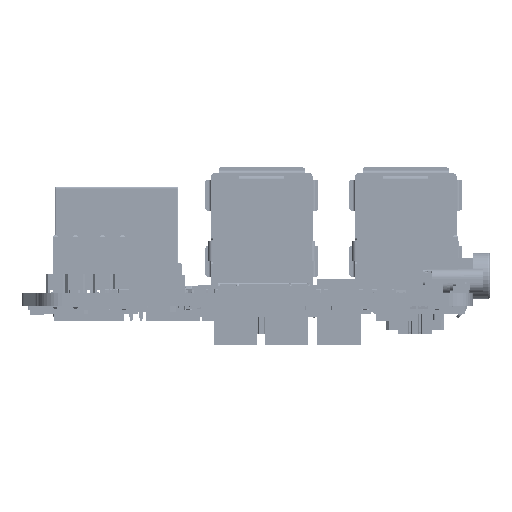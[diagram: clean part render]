
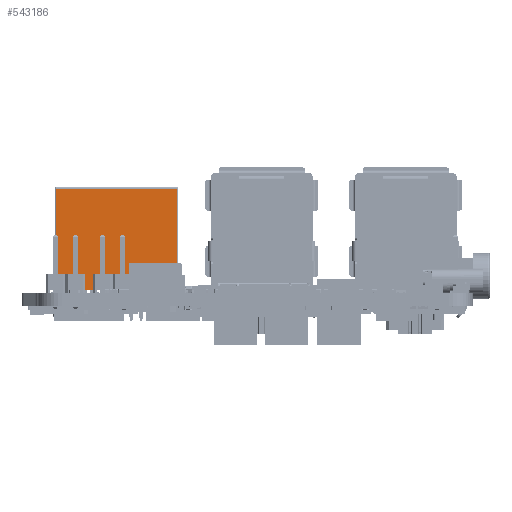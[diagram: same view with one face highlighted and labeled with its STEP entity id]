
A CAD part, left-side view. The second image highlights one B-rep face of the part: STEP entity #543186.
In plain terms, the highlighted planar face has unit normal (-1, 0, 0).
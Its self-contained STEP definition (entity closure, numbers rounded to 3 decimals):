
#51884=DIRECTION('',(0.,-1.,0.));
#51885=VECTOR('',#51884,15.47);
#51886=CARTESIAN_POINT('',(-0.059,258.792,
0.4));
#51887=LINE('',#51886,#51885);
#52177=DIRECTION('',(0.,0.,1.));
#52178=VECTOR('',#52177,13.07);
#52179=CARTESIAN_POINT('',(-0.059,243.322,
0.4));
#52180=LINE('',#52179,#52178);
#52198=DIRECTION('',(0.,0.,-1.));
#52199=VECTOR('',#52198,13.07);
#52200=CARTESIAN_POINT('',(-0.061,258.792,
13.47));
#52201=LINE('',#52200,#52199);
#53364=DIRECTION('',(0.,1.,0.));
#53365=VECTOR('',#53364,15.47);
#53366=CARTESIAN_POINT('',(-0.061,243.322,
13.47));
#53367=LINE('',#53366,#53365);
#443391=CARTESIAN_POINT('',(-0.059,243.322,
0.4));
#443392=CARTESIAN_POINT('',(-0.061,243.322,
13.47));
#443393=VERTEX_POINT('',#443391);
#443394=VERTEX_POINT('',#443392);
#443395=CARTESIAN_POINT('',(-0.059,258.792,
0.4));
#443396=VERTEX_POINT('',#443395);
#443397=CARTESIAN_POINT('',(-0.061,258.792,
13.47));
#443398=VERTEX_POINT('',#443397);
#543173=CARTESIAN_POINT('',(-0.06,251.057,7.05));
#543174=DIRECTION('',(1.,0.,0.));
#543175=DIRECTION('',(0.,1.,0.));
#543176=AXIS2_PLACEMENT_3D('',#543173,#543174,#543175);
#543177=PLANE('',#543176);
#543178=ORIENTED_EDGE('',*,*,#543164,.F.);
#543179=ORIENTED_EDGE('',*,*,#542893,.F.);
#543181=ORIENTED_EDGE('',*,*,#543180,.F.);
#543183=ORIENTED_EDGE('',*,*,#543182,.F.);
#543184=EDGE_LOOP('',(#543178,#543179,#543181,#543183));
#543185=FACE_OUTER_BOUND('',#543184,.F.);
#543186=ADVANCED_FACE('',(#543185),#543177,.F.);
#542893=EDGE_CURVE('',#443396,#443393,#51887,.T.);
#543164=EDGE_CURVE('',#443393,#443394,#52180,.T.);
#543180=EDGE_CURVE('',#443398,#443396,#52201,.T.);
#543182=EDGE_CURVE('',#443394,#443398,#53367,.T.);
